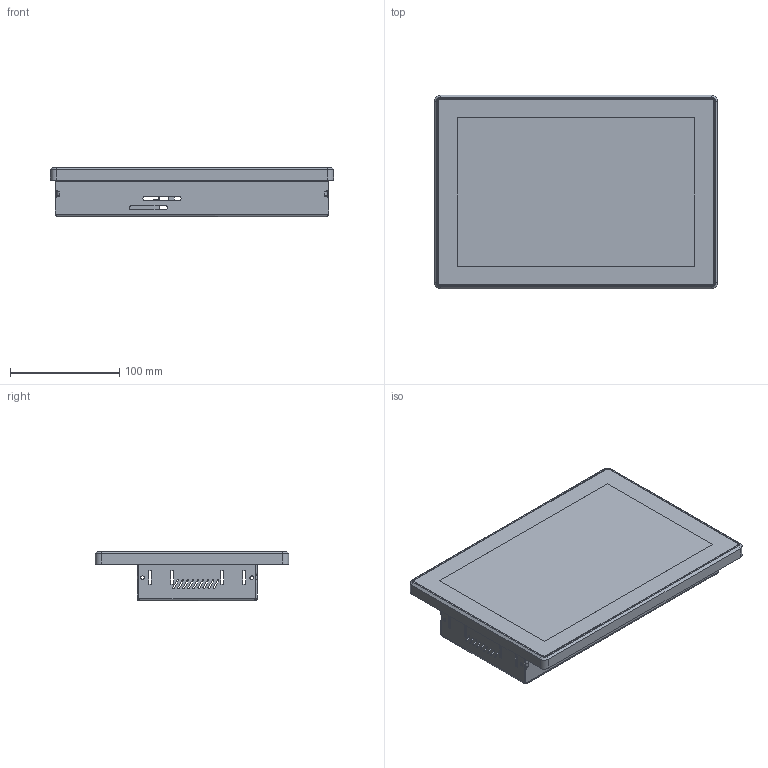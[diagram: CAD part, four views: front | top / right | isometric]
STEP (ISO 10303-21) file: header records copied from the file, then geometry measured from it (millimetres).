
FILE_DESCRIPTION(('STEP AP242'), '1');
FILE_NAME('Ñáîðêà_SDA10W', '', ('UNSPECIFIED'), ('UNSPECIFIED'), 'C3D Converter', 'C3D Toolkit', '');
FILE_SCHEMA(('AP242_MANAGED_MODEL_BASED_3D_ENGINEERING_MIM_LF { 1 0 10303 442 1 1 4 }'));
Length unit declared in the file: millimetre
Bounding box: 259.2 x 177.2 x 45.61 mm (x, y, z)
Volume: 529505.2 mm3; surface area: 287063.5 mm2
Topology: 3 solids, 3 shells, 2262 faces, 6210 edges, 4102 vertices
Faces by surface type: plane 1120, extrusion 894, cylinder 220, bspline 16, cone 12
Full cylindrical faces by diameter (mm): 2 x2, 2.5 x18, 3.2 x10, 3.3 x8, 3.5 x4, 4.22 x6, 5 x4
Entity records: 91470 total; most frequent: CARTESIAN_POINT 18999, ORIENTED_EDGE 12316, DIRECTION 8374, EDGE_CURVE 6158, VECTOR 4796, VERTEX_POINT 4102, LINE 3902, B_SPLINE_CURVE_WITH_KNOTS 2714
